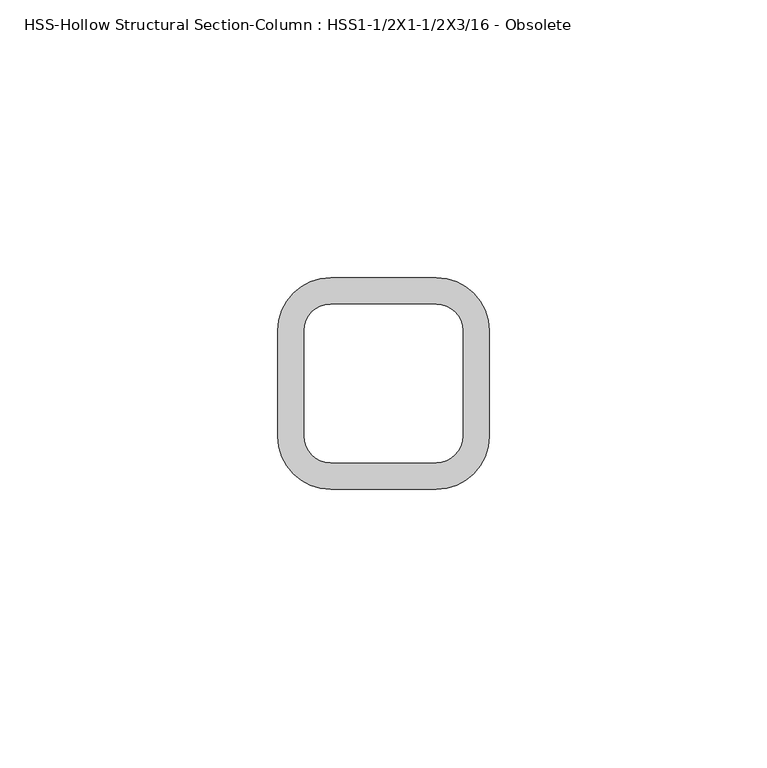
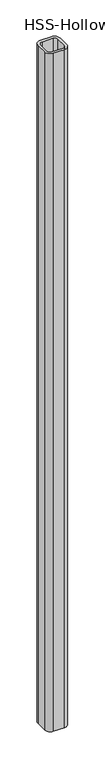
"""IFC4 building model written with IfcOpenShell, lengths in millimetres: column geometry, HSS-Hollow Structural Section-Column : HSS1-1/2X1-1/2X3/16 - Obsolete."""

import ifcopenshell
import ifcopenshell.guid

model = None  # the IFC model being written
_history = None  # IfcOwnerHistory: only IFC2X3 demands one
_inside = {}  # id of a spatial element -> (the spatial element, [elements in it])
_under = {}  # id of a project, library or spatial element -> (it, [spatial elements below it])
_declared = {}  # id of a project -> (the project, [libraries it declares])
_typed = {}  # id of a type object -> (the type object, [elements of that type])
_made_of = {}  # id of a material, layer set ... -> (it, [elements and type objects made of it])


def new_model(schema):
    """Start an empty IFC model of exactly this schema.

    Asked for "IFC4X3", IfcOpenShell would pick the latest addendum, in which some entities
    have other attributes; the version numbers below select the first issue.
    IFC2X3 requires an IfcOwnerHistory on every rooted entity: one is made here for all.
    """
    global model, _history
    if schema == "IFC4X3":
        model = ifcopenshell.file(schema_version=(4, 3, 0, 0))
    else:
        model = ifcopenshell.file(schema=schema)
    _inside.clear()
    _under.clear()
    _declared.clear()
    _typed.clear()
    _made_of.clear()
    _history = None
    if model.schema == "IFC2X3":
        org = make("IfcOrganization", Name="unknown")
        user = make(
            "IfcPersonAndOrganization",
            ThePerson=make("IfcPerson", FamilyName="unknown"),
            TheOrganization=org,
        )
        app = make(
            "IfcApplication",
            ApplicationDeveloper=org,
            Version="unknown",
            ApplicationFullName="unknown",
            ApplicationIdentifier="unknown",
        )
        _history = make(
            "IfcOwnerHistory",
            OwningUser=user,
            OwningApplication=app,
            ChangeAction="ADDED",
            CreationDate=0,
        )
    return model


def make(cls, **values):
    """One entity of the class cls with the attributes given. An attribute that is None is left unset."""
    return model.create_entity(
        cls, **{name: value for name, value in values.items() if value is not None}
    )


def rooted(cls, **values):
    """An entity with a GlobalId (a new one), such as an element, a storey or a relation."""
    return make(cls, GlobalId=ifcopenshell.guid.new(), OwnerHistory=_history, **values)


def si_unit(unit_type, name, prefix=None):
    """IfcSIUnit, for example si_unit("LENGTHUNIT", "METRE", prefix="MILLI")."""
    return make("IfcSIUnit", UnitType=unit_type, Prefix=prefix, Name=name)


def assignment(units):
    """IfcUnitAssignment: the units of a project."""
    return None if units is None else make("IfcUnitAssignment", Units=units)


def point(xyz):
    """IfcCartesianPoint."""
    return None if xyz is None else make("IfcCartesianPoint", Coordinates=xyz)


def direction(xyz):
    """IfcDirection."""
    return None if xyz is None else make("IfcDirection", DirectionRatios=xyz)


def frame(location, z_axis=None, x_axis=None):
    """IfcAxis2Placement3D, a coordinate frame: its origin and axes. An axis left out is left unset."""
    return make(
        "IfcAxis2Placement3D",
        Location=point(location),
        Axis=direction(z_axis),
        RefDirection=direction(x_axis),
    )


def frame_2d(location, x_axis=None):
    """IfcAxis2Placement2D, a coordinate frame in the plane: its origin and x axis."""
    return make(
        "IfcAxis2Placement2D", Location=point(location), RefDirection=direction(x_axis)
    )


def origin():
    """The frame at (0, 0, 0) with its axes left unset."""
    return frame((0.0, 0.0, 0.0))


def origin_with_axes():
    """The frame at (0, 0, 0) with the z axis (0, 0, 1) and the x axis (1, 0, 0) written out."""
    return frame((0.0, 0.0, 0.0), z_axis=(0.0, 0.0, 1.0), x_axis=(1.0, 0.0, 0.0))


def place(relative_to, where):
    """IfcLocalPlacement: puts the frame where relative to a parent placement (None: the world)."""
    return make(
        "IfcLocalPlacement", PlacementRelTo=relative_to, RelativePlacement=where
    )


def context(
    kind, dimensions, precision=None, world=None, true_north=None, identifier=None
):
    """IfcGeometricRepresentationContext, for example the 3D "Model" context."""
    return make(
        "IfcGeometricRepresentationContext",
        ContextIdentifier=identifier,
        ContextType=kind,
        CoordinateSpaceDimension=dimensions,
        Precision=precision,
        WorldCoordinateSystem=world,
        TrueNorth=true_north,
    )


def project(units=None, contexts=None):
    """IfcProject with its units and contexts."""
    return rooted(
        "IfcProject",
        Name="project",
        RepresentationContexts=contexts,
        UnitsInContext=assignment(units),
    )


def spatial(cls, under=None, at=None, **own):
    """A site, building, storey or space (cls), placed at a placement, below another one or the project."""
    s = rooted(cls, ObjectPlacement=at, **own)
    if under is not None:
        _under.setdefault(under.id(), (under, []))[1].append(s)
    return s


def polyline(points):
    """IfcPolyline through the points."""
    return make("IfcPolyline", Points=[point(p) for p in points])


def circle_curve(where, radius):
    """IfcCircle in the frame where."""
    return make("IfcCircle", Position=where, Radius=radius)


def trimmed(basis, trim1, trim2, sense, master):
    """IfcTrimmedCurve: the piece of a basis curve between two trims."""
    return make(
        "IfcTrimmedCurve",
        BasisCurve=basis,
        Trim1=trim1,
        Trim2=trim2,
        SenseAgreement=sense,
        MasterRepresentation=master,
    )


def segment(curve, same_sense, transition):
    """IfcCompositeCurveSegment."""
    return make(
        "IfcCompositeCurveSegment",
        Transition=transition,
        SameSense=same_sense,
        ParentCurve=curve,
    )


def composite_curve(segments, self_intersect=None):
    """IfcCompositeCurve: segments joined end to end."""
    return make("IfcCompositeCurve", Segments=segments, SelfIntersect=self_intersect)


def outline(outer, holes=None, kind="AREA"):
    """IfcArbitraryClosedProfileDef: a profile drawn as a closed curve; with holes, ...WithVoids."""
    if holes is None:
        return make("IfcArbitraryClosedProfileDef", ProfileType=kind, OuterCurve=outer)
    return make(
        "IfcArbitraryProfileDefWithVoids",
        ProfileType=kind,
        OuterCurve=outer,
        InnerCurves=holes,
    )


def extrude(swept, where, along, depth):
    """IfcExtrudedAreaSolid: the profile swept, set in the frame where, extruded along a direction by depth."""
    return make(
        "IfcExtrudedAreaSolid",
        SweptArea=swept,
        Position=where,
        ExtrudedDirection=direction(along),
        Depth=depth,
    )


def shape(context_of_items, identifier, shape_type, items):
    """IfcShapeRepresentation: the items that make up one representation, for example the "Body"."""
    return make(
        "IfcShapeRepresentation",
        ContextOfItems=context_of_items,
        RepresentationIdentifier=identifier,
        RepresentationType=shape_type,
        Items=items,
    )


def source(mapping_origin, context_of_items, identifier, shape_type, items):
    """IfcRepresentationMap: a shape defined once, which mapped items show again and again."""
    return make(
        "IfcRepresentationMap",
        MappingOrigin=mapping_origin,
        MappedRepresentation=shape(context_of_items, identifier, shape_type, items),
    )


def transform(
    local_origin,
    x_axis=None,
    y_axis=None,
    z_axis=None,
    scale=None,
    scale2=None,
    scale3=None,
    uniform=True,
):
    """IfcCartesianTransformationOperator3D, or its non-uniform kind. x_axis, y_axis, z_axis: its Axis1, 2, 3."""
    if uniform:
        return make(
            "IfcCartesianTransformationOperator3D",
            Axis1=direction(x_axis),
            Axis2=direction(y_axis),
            LocalOrigin=point(local_origin),
            Scale=scale,
            Axis3=direction(z_axis),
        )
    return make(
        "IfcCartesianTransformationOperator3DnonUniform",
        Axis1=direction(x_axis),
        Axis2=direction(y_axis),
        LocalOrigin=point(local_origin),
        Scale=scale,
        Axis3=direction(z_axis),
        Scale2=scale2,
        Scale3=scale3,
    )


def mapped(mapping_source, mapping_target):
    """IfcMappedItem: shows the shape of a source again, moved by a transform."""
    return make(
        "IfcMappedItem", MappingSource=mapping_source, MappingTarget=mapping_target
    )


def made_of(thing, what):
    """Note that an element or type object is made of a material, layer set ...; save() writes the relation."""
    if what is not None:
        _made_of.setdefault(what.id(), (what, []))[1].append(thing)
    return thing


def element(
    cls,
    number,
    at=None,
    inside=None,
    cuts=None,
    type_object=None,
    material=None,
    context=None,
    identifier="Body",
    shape_type=None,
    held_by="IfcProductDefinitionShape",
    body=None,
    shapes=None,
    **own,
):
    """One element of the class cls, such as IfcWall. Its Tag is "e" and its number.

    at: its placement. inside: the storey or other place that contains it. cuts: it is an
    opening in that element (IfcRelVoidsElement). A single representation is given by context,
    identifier, shape_type and body (its items); several are given by shapes. held_by: the class
    of the entity that holds the representations. save() writes the other relations.
    """
    e = rooted(cls, Tag="e%d" % number, ObjectPlacement=at, **own)
    if body is not None:
        shapes = [shape(context, identifier, shape_type, body)]
    if shapes is not None:
        e.Representation = make(held_by, Representations=shapes)
    if inside is not None:
        _inside.setdefault(inside.id(), (inside, []))[1].append(e)
    if cuts is not None:
        rooted(
            "IfcRelVoidsElement", RelatingBuildingElement=cuts, RelatedOpeningElement=e
        )
    if type_object is not None:
        _typed.setdefault(type_object.id(), (type_object, []))[1].append(e)
    return made_of(e, material)


def aggregate(whole, parts):
    """IfcRelAggregates: a whole, such as a stair, and the parts it consists of."""
    return rooted("IfcRelAggregates", RelatingObject=whole, RelatedObjects=parts)


def save(model, path):
    """Write the relations noted so far, then the file.

    IfcRelAggregates (storeys below a building ...), IfcRelContainedInSpatialStructure (elements
    in a storey), IfcRelDefinesByType, IfcRelAssociatesMaterial and IfcRelDeclares: one each for
    every whole, place, type object, material and project.
    """
    for whole, parts in _under.values():
        aggregate(whole, parts)
    for where, things in _inside.values():
        rooted(
            "IfcRelContainedInSpatialStructure",
            RelatedElements=things,
            RelatingStructure=where,
        )
    for kind, things in _typed.values():
        rooted("IfcRelDefinesByType", RelatedObjects=things, RelatingType=kind)
    for what, things in _made_of.values():
        rooted("IfcRelAssociatesMaterial", RelatedObjects=things, RelatingMaterial=what)
    for by, libraries in _declared.values():
        rooted("IfcRelDeclares", RelatingContext=by, RelatedDefinitions=libraries)
    model.write(path)


def hss_hollow_structural_section_column_hss1_1_2x1_1_2x3_16_67ca75d1(model_context):
    return source(origin(), model_context, "Body", "SweptSolid", [
        extrude(outline(composite_curve([segment(polyline([(9.525, -19.05), (-9.525, -19.05)]), True, "CONTINUOUS"), segment(trimmed(circle_curve(frame_2d((-9.525, -9.525)), 9.525), [point((-9.525, -19.05))], [point((-19.05, -9.525))], False, "CARTESIAN"), True, "CONTINUOUS"), segment(polyline([(-19.05, -9.525), (-19.05, 9.525)]), True, "CONTINUOUS"), segment(trimmed(circle_curve(frame_2d((-9.525, 9.525)), 9.525), [point((-19.05, 9.525))], [point((-9.525, 19.05))], False, "CARTESIAN"), True, "CONTINUOUS"), segment(polyline([(-9.525, 19.05), (9.525, 19.05)]), True, "CONTINUOUS"), segment(trimmed(circle_curve(frame_2d((9.525, 9.525)), 9.525), [point((9.525, 19.05))], [point((19.05, 9.525))], False, "CARTESIAN"), True, "CONTINUOUS"), segment(polyline([(19.05, 9.525), (19.05, -9.525)]), True, "CONTINUOUS"), segment(trimmed(circle_curve(frame_2d((9.525, -9.525)), 9.525), [point((19.05, -9.525))], [point((9.525, -19.05))], False, "CARTESIAN"), True, "CONTINUOUS")], self_intersect=False), holes=[composite_curve([segment(trimmed(circle_curve(frame_2d((9.525, -9.525)), 4.7625), [point((9.525, -14.2875))], [point((14.2875, -9.525))], True, "CARTESIAN"), True, "CONTINUOUS"), segment(polyline([(14.2875, -9.525), (14.2875, 9.525)]), True, "CONTINUOUS"), segment(trimmed(circle_curve(frame_2d((9.525, 9.525)), 4.7625), [point((14.2875, 9.525))], [point((9.525, 14.2875))], True, "CARTESIAN"), True, "CONTINUOUS"), segment(polyline([(9.525, 14.2875), (-9.525, 14.2875)]), True, "CONTINUOUS"), segment(trimmed(circle_curve(frame_2d((-9.525, 9.525)), 4.7625), [point((-9.525, 14.2875))], [point((-14.2875, 9.525))], True, "CARTESIAN"), True, "CONTINUOUS"), segment(polyline([(-14.2875, 9.525), (-14.2875, -9.525)]), True, "CONTINUOUS"), segment(trimmed(circle_curve(frame_2d((-9.525, -9.525)), 4.7625), [point((-14.2875, -9.525))], [point((-9.525, -14.2875))], True, "CARTESIAN"), True, "CONTINUOUS"), segment(polyline([(-9.525, -14.2875), (9.525, -14.2875)]), True, "CONTINUOUS")], self_intersect=False)]), origin_with_axes(), (0.0, 0.0, 1.0), 1219.2),
    ])


if __name__ == "__main__":
    model = new_model("IFC4")
    model_context = context("Model", 3, world=origin())
    ifc_project = project(units=[si_unit("LENGTHUNIT", "METRE", prefix="MILLI")], contexts=[model_context])
    site = spatial("IfcSite", under=ifc_project)
    building = spatial("IfcBuilding", under=site)
    placement = place(None, origin())
    hss_hollow_structural_section_column_hss1_1_2x1_1_2x3_16_shape = hss_hollow_structural_section_column_hss1_1_2x1_1_2x3_16_67ca75d1(model_context)
    element("IfcColumn", 1, ObjectType="HSS-Hollow Structural Section-Column : HSS1-1/2X1-1/2X3/16 - Obsolete", at=placement, inside=building, context=model_context, shape_type="MappedRepresentation", body=[
        mapped(hss_hollow_structural_section_column_hss1_1_2x1_1_2x3_16_shape, transform((0.0, 0.0, 0.0), x_axis=(1.0, 0.0, 0.0), y_axis=(0.0, 1.0, 0.0), z_axis=(0.0, 0.0, 1.0))),
    ])
    save(model, "model.ifc")
